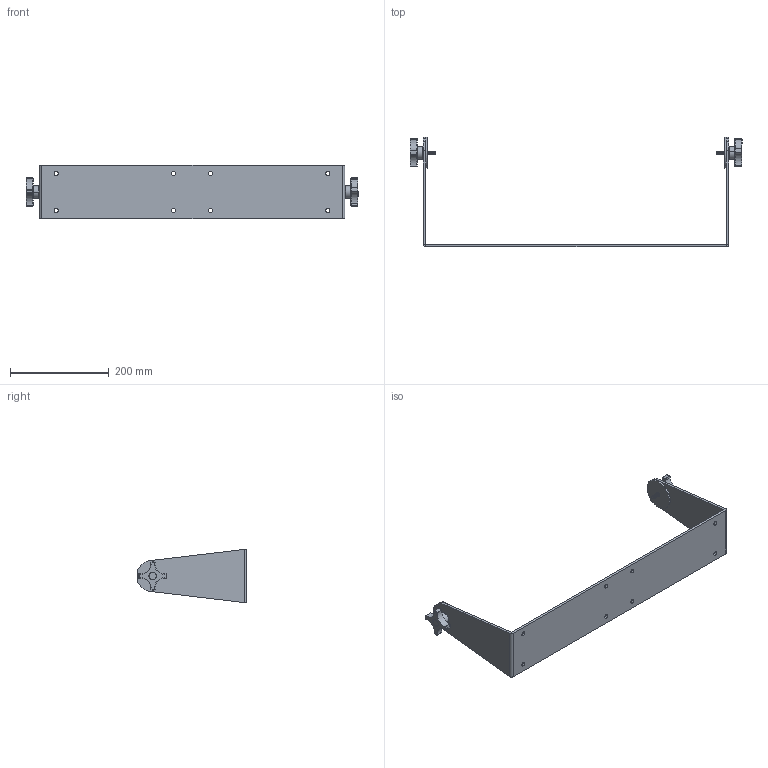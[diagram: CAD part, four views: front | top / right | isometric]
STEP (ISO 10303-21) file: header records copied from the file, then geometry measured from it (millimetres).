
FILE_DESCRIPTION (( 'STEP AP214' ), '1' );
FILE_NAME ('Wall Yoke for 23.8 inch Universal Mount Monitor, YW23.8.STEP', '2022-07-07T18:03:40', ( '' ), ( '' ), 'SwSTEP 2.0', 'SolidWorks 2020', '' );
FILE_SCHEMA (( 'AUTOMOTIVE_DESIGN' ));
Length unit declared in the file: inch
Products named in the file (5): Knob, 30053; All Wall Yoke Configurations, YWxx_YW23.8; Wall Yoke for 23.8 inch Universal Mount Monitor, YW23.8; Bushing, 30501; Rubber Washer, 10177
Assembly tree (7 placements, depth 2):
  Wall Yoke for 23.8 inch Universal Mount Monitor, YW23.8
    All Wall Yoke Configurations, YWxx_YW23.8
    Rubber Washer, 10177  x2
    Knob, 30053  x2
    Bushing, 30501  x2
Bounding box: 673.13 x 222.25 x 107.95 mm (x, y, z)
Volume: 551111.5 mm3; surface area: 242476.3 mm2
Topology: 7 solids, 7 shells, 568 faces, 1228 edges, 666 vertices
Faces by surface type: cylinder 262, cone 176, torus 48, sphere 40, plane 38, bspline 4
Entity records: 10971 total; most frequent: CARTESIAN_POINT 4020, DIRECTION 1495, ORIENTED_EDGE 1340, EDGE_CURVE 670, AXIS2_PLACEMENT_3D 612, VERTEX_POINT 371, EDGE_LOOP 339, ADVANCED_FACE 311
